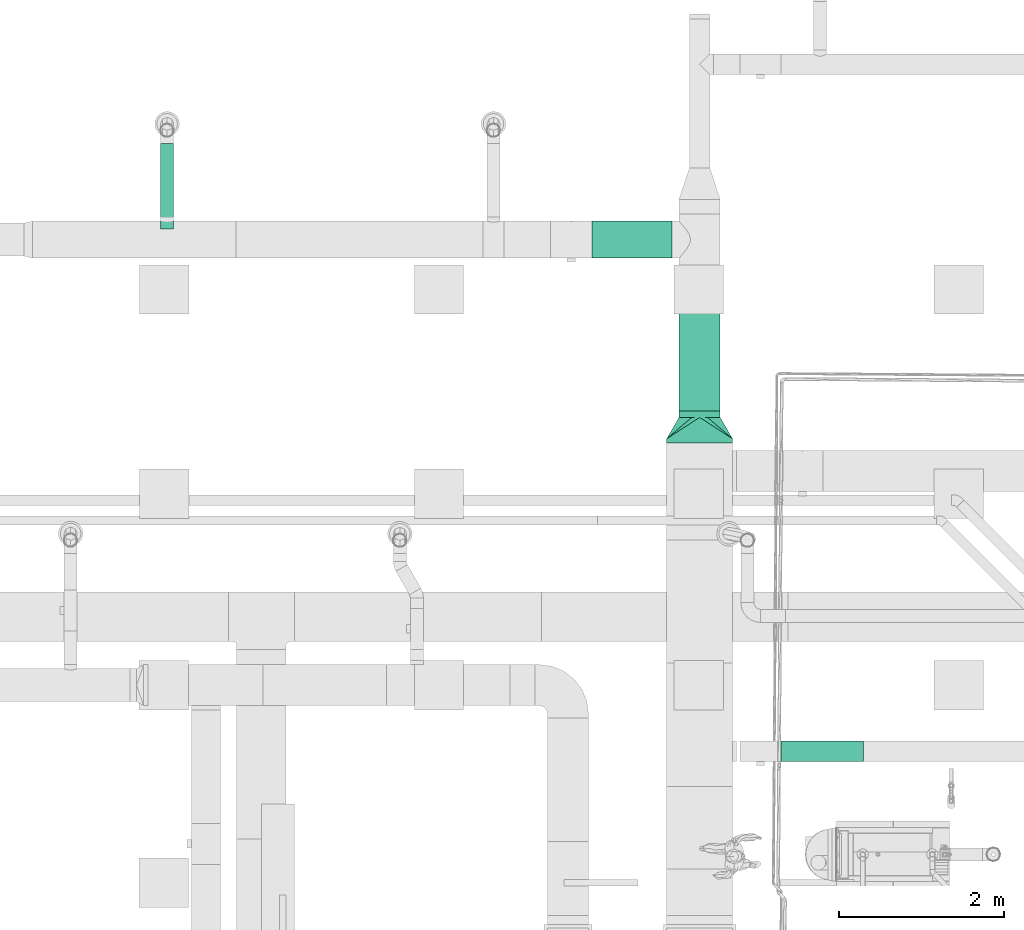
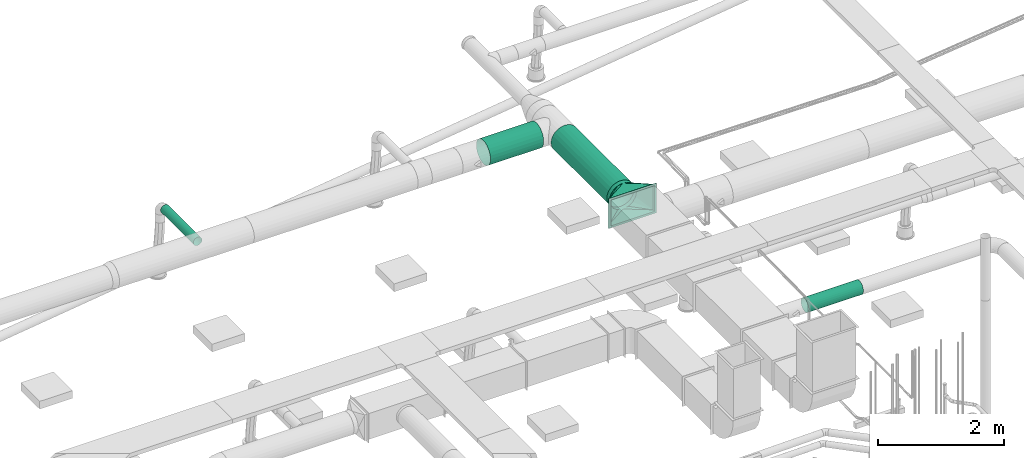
# One storey, part 223 of 374: 4 flow segments, 1 flow fitting.
"""IFC2X3 building model written with IfcOpenShell, lengths in metres."""

from ifc_helpers import new_model, si_unit, direction, origin, place, context, subcontext, project, spatial, open_shell, surface_model, source, transform, mapped, element, save


model = new_model("IFC2X3")

# Units and contexts
model_context = context("Model", 3, precision=1e-05, world=origin(), true_north=direction((-0.4480736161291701, 0.8939966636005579)))
body_context = subcontext(model_context, "Body", "Model", "MODEL_VIEW")
ifc_project = project(units=[si_unit("LENGTHUNIT", "METRE"), si_unit("AREAUNIT", "SQUARE_METRE"), si_unit("VOLUMEUNIT", "CUBIC_METRE"), si_unit("PLANEANGLEUNIT", "RADIAN"), si_unit("THERMODYNAMICTEMPERATUREUNIT", "KELVIN"), si_unit("MASSUNIT", "GRAM", prefix="KILO"), si_unit("TIMEUNIT", "SECOND")], contexts=[model_context])

# Site, building, storey
site_placement = place(None, origin())
site = spatial("IfcSite", under=ifc_project, at=site_placement, Name="Site 1", CompositionType="ELEMENT")
building_placement = place(site_placement, origin())
building = spatial("IfcBuilding", under=site, at=building_placement, Name="Undefined", CompositionType="ELEMENT")
storey_placement = place(building_placement, origin())
storey = spatial("IfcBuildingStorey", under=building, at=storey_placement, Name="Rez de chauss\x8ee", CompositionType="ELEMENT", Elevation=0.0)

# Flow segment
shared_shape_1 = source(origin(), body_context, "Body", "SurfaceModel", [
    surface_model("IfcFaceBasedSurfaceModel", [(0.0, 0.03263154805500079, 0.0), (0.0, 0.0, 0.0), (1.0, 0.0, 0.0), (1.0, 0.032631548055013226, -4.4408921e-16), (0.0, -0.031519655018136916, -0.008445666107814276), (1.0, -0.03151965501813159, -0.008445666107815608), (0.0, -0.05977940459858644, -0.024761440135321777), (1.0, -0.05977940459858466, -0.02476144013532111), (0.0, -0.08285339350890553, -0.047835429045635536), (1.0, -0.0828533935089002, -0.04783542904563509), (0.0, -0.09916916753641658, -0.07609517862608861), (1.0, -0.09916916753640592, -0.07609517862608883), (0.0, -0.1076148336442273, -0.10761483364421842), (1.0, -0.10761483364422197, -0.1076148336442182), (0.0, -0.1076148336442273, -0.14024638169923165), (1.0, -0.10761483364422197, -0.14024638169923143), (0.0, -0.09916916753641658, -0.17176603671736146), (1.0, -0.0991691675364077, -0.17176603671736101), (0.0, -0.08285339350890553, -0.2000257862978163), (1.0, -0.08285339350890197, -0.2000257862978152), (0.0, -0.059779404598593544, -0.22309977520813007), (1.0, -0.059779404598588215, -0.2230997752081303), (0.0, -0.03151965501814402, -0.23941554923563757), (1.0, -0.03151965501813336, -0.23941554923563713), (0.0, -1.4210854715e-14, -0.24786121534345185), (1.0, -3.552713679e-15, -0.24786121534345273), (0.0, 0.03263154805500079, -0.24786121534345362), (1.0, 0.0326315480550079, -0.24786121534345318), (0.0, 0.0641512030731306, -0.23941554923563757), (1.0, 0.06415120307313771, -0.23941554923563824), (0.0, 0.09241095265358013, -0.22309977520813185), (1.0, 0.09241095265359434, -0.22309977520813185), (0.0, 0.11548494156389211, -0.2000257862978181), (1.0, 0.1154849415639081, -0.20002578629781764), (0.0, 0.13180071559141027, -0.171766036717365), (1.0, 0.13180071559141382, -0.17176603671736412), (0.0, 0.140246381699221, -0.1402463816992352), (1.0, 0.14024638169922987, -0.1402463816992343), (0.0, 0.140246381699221, -0.10761483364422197), (1.0, 0.14024638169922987, -0.10761483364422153), (0.0, 0.13180071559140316, -0.07609517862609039), (1.0, 0.1318007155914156, -0.07609517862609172), (0.0, 0.11548494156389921, -0.04783542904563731), (1.0, 0.11548494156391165, -0.047835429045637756), (0.0, 0.09241095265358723, -0.024761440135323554), (1.0, 0.09241095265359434, -0.02476144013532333), (0.0, 0.06415120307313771, -0.008445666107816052), (1.0, 0.06415120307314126, -0.008445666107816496)], [open_shell([[[0, 1, 2, 3]], [[1, 4, 5, 2]], [[4, 6, 7, 5]], [[6, 8, 9, 7]], [[8, 10, 11, 9]], [[10, 12, 13, 11]], [[12, 14, 15, 13]], [[14, 16, 17, 15]], [[16, 18, 19, 17]], [[18, 20, 21, 19]], [[20, 22, 23, 21]], [[22, 24, 25, 23]], [[24, 26, 27, 25]], [[26, 28, 29, 27]], [[28, 30, 31, 29]], [[30, 32, 33, 31]], [[32, 34, 35, 33]], [[34, 36, 37, 35]], [[36, 38, 39, 37]], [[38, 40, 41, 39]], [[40, 42, 43, 41]], [[42, 44, 45, 43]], [[44, 46, 47, 45]], [[46, 0, 3, 47]]])]),
])
flow_segment_1_placement = place(storey_placement, origin())
element("IfcFlowSegment", 1, at=flow_segment_1_placement, inside=storey, Name="Tube", ObjectType="Tube", context=body_context, shape_type="MappedRepresentation", body=[
    mapped(shared_shape_1, transform((52.92499507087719, 14.278791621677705, 3.920740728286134), x_axis=(1.0, 0.0, 0.0), y_axis=(0.0, 0.9914448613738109, 0.1305261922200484), z_axis=(0.0, -0.1305261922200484, 0.9914448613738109))),
])

# Flow fitting
shared_shape_2 = source(origin(), body_context, "Body", "SurfaceModel", [
    surface_model("IfcFaceBasedSurfaceModel", [(0.0, 0.0, 0.0), (0.8800000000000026, 0.0, 0.0), (0.8400000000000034, 0.040000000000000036, -7.105427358e-15), (0.04000000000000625, 0.040000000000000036, 0.0), (0.8800000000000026, 0.5800000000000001, -2.842170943e-14), (0.8400000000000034, 0.54, -2.842170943e-14), (0.0, 0.5800000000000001, 0.0), (0.04000000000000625, 0.54, 0.0), (0.04000000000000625, 0.040000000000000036, -0.0470000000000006), (0.3443291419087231, 0.05903011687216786, -0.3068076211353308), (0.4399999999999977, 0.03999999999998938, -0.30680762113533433), (0.2632233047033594, 0.1132233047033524, -0.3068076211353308), (0.20903011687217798, 0.19432914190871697, -0.30680762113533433), (0.18999999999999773, 0.28999999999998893, -0.30680762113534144), (0.04000000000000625, 0.54, -0.0470000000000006), (0.20903011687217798, 0.38567085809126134, -0.30680762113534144), (0.2632233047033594, 0.4667766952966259, -0.306807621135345), (0.3443291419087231, 0.5209698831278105, -0.306807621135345), (0.4399999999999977, 0.5399999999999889, -0.3068076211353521), (0.8400000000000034, 0.5399999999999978, -0.047000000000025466), (0.5356708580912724, 0.5209698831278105, -0.30680762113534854), (0.6167766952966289, 0.4667766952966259, -0.306807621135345), (0.6709698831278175, 0.38567085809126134, -0.306807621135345), (0.6899999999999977, 0.28999999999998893, -0.30680762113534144), (0.8400000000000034, 0.039999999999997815, -0.04700000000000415), (0.6709698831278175, 0.19432914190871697, -0.3068076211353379), (0.6167766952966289, 0.1132233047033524, -0.3068076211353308), (0.5356708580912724, 0.05903011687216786, -0.30680762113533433), (0.04000000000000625, 0.54, 0.0030000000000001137), (0.04000000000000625, 0.040000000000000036, 0.0030000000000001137), (0.8400000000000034, 0.040000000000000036, 0.0029999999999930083), (0.8400000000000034, 0.54, 0.002999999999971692), (0.37529523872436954, 0.048518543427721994, -0.3068076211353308), (0.37529523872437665, 0.04851854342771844, -0.38680762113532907), (0.44000000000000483, 0.039999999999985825, -0.3868076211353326), (0.3149999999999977, 0.07349364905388, -0.30680762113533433), (0.31500000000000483, 0.07349364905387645, -0.3868076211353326), (0.26322330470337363, 0.11322330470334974, -0.3868076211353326), (0.2234936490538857, 0.16499999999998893, -0.30680762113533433), (0.2234936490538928, 0.16499999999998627, -0.3868076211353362), (0.19851854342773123, 0.22529523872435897, -0.3068076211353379), (0.19851854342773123, 0.2252952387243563, -0.3868076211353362), (0.19000000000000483, 0.28999999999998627, -0.38680762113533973), (0.19851854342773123, 0.35470476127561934, -0.306807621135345), (0.19851854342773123, 0.3547047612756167, -0.3868076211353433), (0.2234936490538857, 0.41499999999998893, -0.30680762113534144), (0.2234936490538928, 0.41499999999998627, -0.3868076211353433), (0.26322330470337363, 0.46677669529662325, -0.38680762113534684), (0.3149999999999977, 0.5065063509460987, -0.30680762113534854), (0.31500000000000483, 0.5065063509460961, -0.38680762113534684), (0.37529523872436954, 0.5314814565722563, -0.30680762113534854), (0.37529523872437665, 0.5314814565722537, -0.38680762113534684), (0.44000000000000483, 0.5399999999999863, -0.3868076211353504), (0.5047047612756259, 0.5314814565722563, -0.30680762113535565), (0.504704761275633, 0.5314814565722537, -0.38680762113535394), (0.5649999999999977, 0.5065063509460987, -0.30680762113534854), (0.5650000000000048, 0.5065063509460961, -0.38680762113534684), (0.616776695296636, 0.46677669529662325, -0.3868076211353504), (0.6565063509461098, 0.41499999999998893, -0.306807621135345), (0.6565063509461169, 0.41499999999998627, -0.38680762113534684), (0.6814814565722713, 0.35470476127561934, -0.306807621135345), (0.6814814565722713, 0.3547047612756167, -0.38680762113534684), (0.6900000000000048, 0.28999999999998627, -0.38680762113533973), (0.6814814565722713, 0.22529523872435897, -0.3068076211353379), (0.6814814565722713, 0.2252952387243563, -0.38680762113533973), (0.6565063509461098, 0.16499999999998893, -0.3068076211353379), (0.6565063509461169, 0.16499999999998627, -0.38680762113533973), (0.616776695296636, 0.11322330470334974, -0.3868076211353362), (0.5649999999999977, 0.07349364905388, -0.30680762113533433), (0.5650000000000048, 0.07349364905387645, -0.3868076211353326), (0.5047047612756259, 0.048518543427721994, -0.3068076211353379), (0.504704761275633, 0.04851854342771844, -0.3868076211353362)], [open_shell([[[0, 1, 2, 3]], [[1, 4, 5, 2]], [[6, 4, 5, 7]], [[0, 6, 7, 3]], [[8, 9, 10]], [[8, 11, 9]], [[8, 12, 11]], [[8, 13, 12]], [[8, 14, 13]], [[14, 15, 13]], [[14, 16, 15]], [[14, 17, 16]], [[14, 18, 17]], [[14, 19, 18]], [[19, 20, 18]], [[19, 21, 20]], [[19, 22, 21]], [[19, 23, 22]], [[19, 24, 23]], [[24, 25, 23]], [[24, 26, 25]], [[24, 27, 26]], [[24, 10, 27]], [[24, 8, 10]], [[28, 14, 8, 29]], [[29, 8, 24, 30]], [[30, 24, 19, 31]], [[31, 19, 14, 28]], [[10, 32, 33, 34]], [[32, 35, 36, 33]], [[35, 11, 37, 36]], [[11, 38, 39, 37]], [[38, 40, 41, 39]], [[40, 13, 42, 41]], [[13, 43, 44, 42]], [[43, 45, 46, 44]], [[45, 16, 47, 46]], [[16, 48, 49, 47]], [[48, 50, 51, 49]], [[50, 18, 52, 51]], [[18, 53, 54, 52]], [[53, 55, 56, 54]], [[55, 21, 57, 56]], [[21, 58, 59, 57]], [[58, 60, 61, 59]], [[60, 23, 62, 61]], [[23, 63, 64, 62]], [[63, 65, 66, 64]], [[65, 26, 67, 66]], [[26, 68, 69, 67]], [[68, 70, 71, 69]], [[70, 10, 34, 71]]])]),
])
flow_fitting_placement = place(storey_placement, origin())
element("IfcFlowFitting", 2, at=flow_fitting_placement, inside=storey, Name="Réduction symétrique", ObjectType="Réduction symétrique", context=body_context, shape_type="MappedRepresentation", body=[
    mapped(shared_shape_2, transform((52.37499507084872, 18.05986750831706, 4.090000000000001), x_axis=(-1.0, 0.0, 0.0), y_axis=(0.0, 0.0, -1.0), z_axis=(0.0, -1.0, 0.0))),
])

# Flow segments
shared_shape_3 = source(origin(), body_context, "Body", "SurfaceModel", [
    surface_model("IfcFaceBasedSurfaceModel", [(0.0, 0.05873678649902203, -2.77555756e-16), (0.0, 0.0, 0.0), (0.9750000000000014, 3.552713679e-15, 0.0), (0.9750000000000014, 0.058736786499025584, 0.0), (0.0, -0.05673537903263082, -0.015202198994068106), (0.9750000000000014, -0.05673537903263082, -0.015202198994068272), (0.0, -0.10760292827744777, -0.044570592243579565), (0.9750000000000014, -0.10760292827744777, -0.04457059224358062), (0.0, -0.14913610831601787, -0.08610377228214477), (0.9750000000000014, -0.14913610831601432, -0.08610377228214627), (0.0, -0.1785045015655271, -0.13697132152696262), (0.9750000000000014, -0.17850450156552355, -0.13697132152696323), (0.0, -0.19370670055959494, -0.1937067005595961), (0.9750000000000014, -0.19370670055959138, -0.19370670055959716), (0.0, -0.19370670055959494, -0.252443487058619), (0.9750000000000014, -0.19370670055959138, -0.2524434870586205), (0.0, -0.1785045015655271, -0.30917886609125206), (0.9750000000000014, -0.17850450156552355, -0.309178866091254), (0.0, -0.14913610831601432, -0.36004641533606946), (0.9750000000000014, -0.14913610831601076, -0.36004641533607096), (0.0, -0.10760292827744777, -0.40157959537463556), (0.9750000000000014, -0.10760292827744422, -0.40157959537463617), (0.0, -0.05673537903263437, -0.43094798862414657), (0.9750000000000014, -0.056735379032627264, -0.4309479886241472), (0.0, 0.0, -0.4461501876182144), (0.9750000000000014, 7.105427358e-15, -0.44615018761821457), (0.0, 0.058736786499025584, -0.4461501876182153), (0.9750000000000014, 0.05873678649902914, -0.44615018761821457), (0.0, 0.1154721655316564, -0.430947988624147), (0.9750000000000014, 0.1154721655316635, -0.43094798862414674), (0.0, 0.16633971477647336, -0.4015795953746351), (0.9750000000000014, 0.16633971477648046, -0.4015795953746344), (0.0, 0.20787289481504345, -0.3600464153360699), (0.9750000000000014, 0.207872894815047, -0.36004641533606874), (0.0, 0.23724128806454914, -0.3091788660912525), (0.9750000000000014, 0.23724128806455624, -0.30917886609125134), (0.0, 0.25244348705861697, -0.25244348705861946), (0.9750000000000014, 0.25244348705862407, -0.2524434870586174), (0.0, 0.25244348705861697, -0.1937067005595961), (0.9750000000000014, 0.25244348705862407, -0.19370670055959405), (0.0, 0.2372412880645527, -0.13697132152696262), (0.9750000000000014, 0.23724128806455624, -0.136971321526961), (0.0, 0.2078728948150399, -0.08610377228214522), (0.9750000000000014, 0.20787289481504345, -0.08610377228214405), (0.0, 0.16633971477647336, -0.044570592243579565), (0.9750000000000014, 0.1663397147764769, -0.044570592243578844), (0.0, 0.11547216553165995, -0.01520219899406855), (0.9750000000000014, 0.11547216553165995, -0.015202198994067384)], [open_shell([[[0, 1, 2, 3]], [[1, 4, 5, 2]], [[4, 6, 7, 5]], [[6, 8, 9, 7]], [[8, 10, 11, 9]], [[10, 12, 13, 11]], [[12, 14, 15, 13]], [[14, 16, 17, 15]], [[16, 18, 19, 17]], [[18, 20, 21, 19]], [[20, 22, 23, 21]], [[22, 24, 25, 23]], [[24, 26, 27, 25]], [[26, 28, 29, 27]], [[28, 30, 31, 29]], [[30, 32, 33, 31]], [[32, 34, 35, 33]], [[34, 36, 37, 35]], [[36, 38, 39, 37]], [[38, 40, 41, 39]], [[40, 42, 43, 41]], [[42, 44, 45, 43]], [[44, 46, 47, 45]], [[46, 0, 3, 47]]])]),
])
flow_segment_2_placement = place(storey_placement, origin())
element("IfcFlowSegment", 3, at=flow_segment_2_placement, inside=storey, Name="Tube", ObjectType="Tube", context=body_context, shape_type="MappedRepresentation", body=[
    mapped(shared_shape_3, transform((50.6249950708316, 20.468653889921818, 4.017333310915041), x_axis=(1.0, 0.0, 0.0), y_axis=(0.0, 0.9914448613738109, 0.1305261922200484), z_axis=(0.0, -0.1305261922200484, 0.9914448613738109))),
])
shared_shape_4 = source(origin(), body_context, "Body", "SurfaceModel", [
    surface_model("IfcFaceBasedSurfaceModel", [(0.0, 0.0652630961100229, -3.552713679e-15), (0.0, 0.0, 0.0), (1.770213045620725, 0.0, 4.4408921e-16), (1.7702130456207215, 0.0652630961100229, 4.4408921e-16), (0.0, -0.06303931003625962, -0.01689133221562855), (1.7702130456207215, -0.06303931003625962, -0.016891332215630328), (0.0, -0.11955880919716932, -0.049522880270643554), (1.7702130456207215, -0.11955880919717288, -0.04952288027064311), (0.0, -0.1657067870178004, -0.09567085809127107), (1.7702130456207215, -0.16570678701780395, -0.09567085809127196), (0.0, -0.1983383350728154, -0.15219035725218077), (1.7702130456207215, -0.19833833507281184, -0.15219035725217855), (0.0, -0.2152296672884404, -0.2152296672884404), (1.7702130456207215, -0.2152296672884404, -0.21522966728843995), (0.0, -0.2152296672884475, -0.28049276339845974), (1.7702130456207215, -0.2152296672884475, -0.2804927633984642), (0.0, -0.1983383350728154, -0.3435320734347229), (1.7702130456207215, -0.19833833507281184, -0.3435320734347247), (0.0, -0.1657067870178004, -0.4000515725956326), (1.7702130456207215, -0.16570678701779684, -0.40005157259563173), (0.0, -0.11955880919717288, -0.44619955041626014), (1.7702130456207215, -0.11955880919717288, -0.4461995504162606), (0.0, -0.06303931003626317, -0.47883109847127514), (1.770213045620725, -0.06303931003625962, -0.47883109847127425), (0.0, -7.105427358e-15, -0.49572243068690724), (1.7702130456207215, -7.105427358e-15, -0.4957224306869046), (0.0, 0.0652630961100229, -0.4957224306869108), (1.7702130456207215, 0.0652630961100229, -0.4957224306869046), (0.0, 0.12830240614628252, -0.47883109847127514), (1.7702130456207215, 0.12830240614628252, -0.4788310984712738), (0.0, 0.18482190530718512, -0.4461995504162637), (1.7702130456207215, 0.18482190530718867, -0.44619955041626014), (0.0, 0.2309698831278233, -0.4000515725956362), (1.7702130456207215, 0.23096988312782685, -0.4000515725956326), (0.0, 0.26360143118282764, -0.34353207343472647), (1.7702130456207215, 0.26360143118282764, -0.3435320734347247), (0.0, 0.2804927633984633, -0.2804927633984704), (1.770213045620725, 0.2804927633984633, -0.2804927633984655), (0.0, 0.28049276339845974, -0.2152296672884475), (1.7702130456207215, 0.2804927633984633, -0.21522966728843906), (0.0, 0.2636014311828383, -0.15219035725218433), (1.7702130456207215, 0.26360143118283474, -0.1521903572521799), (0.0, 0.2309698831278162, -0.09567085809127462), (1.7702130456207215, 0.23096988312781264, -0.09567085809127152), (0.0, 0.18482190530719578, -0.049522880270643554), (1.7702130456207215, 0.18482190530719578, -0.049522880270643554), (0.0, 0.12830240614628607, -0.016891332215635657), (1.7702130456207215, 0.12830240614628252, -0.016891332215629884)], [open_shell([[[0, 1, 2, 3]], [[1, 4, 5, 2]], [[4, 6, 7, 5]], [[6, 8, 9, 7]], [[8, 10, 11, 9]], [[10, 12, 13, 11]], [[12, 14, 15, 13]], [[14, 16, 17, 15]], [[16, 18, 19, 17]], [[18, 20, 21, 19]], [[20, 22, 23, 21]], [[22, 24, 25, 23]], [[24, 26, 27, 25]], [[26, 28, 29, 27]], [[28, 30, 31, 29]], [[30, 32, 33, 31]], [[32, 34, 35, 33]], [[34, 36, 37, 35]], [[36, 38, 39, 37]], [[38, 40, 41, 39]], [[40, 42, 43, 41]], [[42, 44, 45, 43]], [[44, 46, 47, 45]], [[46, 0, 3, 47]]])]),
])
flow_segment_3_placement = place(storey_placement, origin())
element("IfcFlowSegment", 4, at=flow_segment_3_placement, inside=storey, Name="Tube", ObjectType="Tube", context=body_context, shape_type="MappedRepresentation", body=[
    mapped(shared_shape_4, transform((51.9996998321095, 20.21688817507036, 3.5585185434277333), x_axis=(0.0, -1.0, 0.0), y_axis=(-0.9914448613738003, 0.0, -0.13052619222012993), z_axis=(0.130526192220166, 0.0, -0.9914448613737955))),
])
shared_shape_5 = source(origin(), body_context, "Body", "SurfaceModel", [
    surface_model("IfcFaceBasedSurfaceModel", [(0.0, 0.020884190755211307, 0.0), (0.0, 0.0, 0.0), (1.0370256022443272, -7.105427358e-15, 0.0), (1.0370256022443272, 0.0208841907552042, 0.0), (0.0, -0.020172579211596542, -0.005405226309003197), (1.0370256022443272, -0.020172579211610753, -0.005405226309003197), (0.0, -0.03825881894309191, -0.015847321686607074), (1.0370256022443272, -0.038258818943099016, -0.015847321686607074), (0.0, -0.05302617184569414, -0.0306146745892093), (1.0370256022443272, -0.05302617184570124, -0.030614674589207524), (0.0, -0.06346826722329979, -0.04870091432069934), (1.0370256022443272, -0.06346826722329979, -0.04870091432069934), (0.0, -0.06887349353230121, -0.06887349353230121), (1.0370256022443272, -0.06887349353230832, -0.06887349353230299), (0.0, -0.06887349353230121, -0.08975768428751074), (1.0370256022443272, -0.06887349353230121, -0.08975768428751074), (0.0, -0.06346826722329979, -0.10993026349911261), (1.0370256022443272, -0.0634682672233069, -0.10993026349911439), (0.0, -0.05302617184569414, -0.12801650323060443), (1.0370256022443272, -0.05302617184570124, -0.12801650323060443), (0.0, -0.038258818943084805, -0.14278385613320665), (1.0370256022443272, -0.038258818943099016, -0.14278385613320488), (0.0, -0.020172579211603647, -0.15322595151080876), (1.0370256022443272, -0.020172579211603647, -0.15322595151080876), (0.0, 7.105427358e-15, -0.15863117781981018), (1.0370256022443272, 0.0, -0.15863117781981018), (0.0, 0.020884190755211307, -0.15863117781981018), (1.0370256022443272, 0.020884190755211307, -0.15863117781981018), (0.0, 0.04105676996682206, -0.15322595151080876), (1.0370256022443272, 0.04105676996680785, -0.15322595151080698), (0.0, 0.05914300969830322, -0.1427838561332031), (1.0370256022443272, 0.05914300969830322, -0.1427838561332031), (0.0, 0.07391036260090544, -0.12801650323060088), (1.0370256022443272, 0.07391036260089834, -0.12801650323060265), (0.0, 0.0843524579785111, -0.10993026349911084), (1.0370256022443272, 0.08435245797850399, -0.10993026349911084), (0.0, 0.08975768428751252, -0.08975768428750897), (1.0370256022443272, 0.08975768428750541, -0.08975768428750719), (0.0, 0.08975768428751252, -0.06887349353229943), (1.0370256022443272, 0.08975768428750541, -0.06887349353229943), (0.0, 0.0843524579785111, -0.048700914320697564), (1.0370256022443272, 0.08435245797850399, -0.04870091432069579), (0.0, 0.07391036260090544, -0.030614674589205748), (1.0370256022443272, 0.07391036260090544, -0.030614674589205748), (0.0, 0.05914300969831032, -0.015847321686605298), (1.0370256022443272, 0.05914300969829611, -0.015847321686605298), (0.0, 0.04105676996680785, -0.005405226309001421), (1.0370256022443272, 0.04105676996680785, -0.005405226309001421)], [open_shell([[[0, 1, 2, 3]], [[1, 4, 5, 2]], [[4, 6, 7, 5]], [[6, 8, 9, 7]], [[8, 10, 11, 9]], [[10, 12, 13, 11]], [[12, 14, 15, 13]], [[14, 16, 17, 15]], [[16, 18, 19, 17]], [[18, 20, 21, 19]], [[20, 22, 23, 21]], [[22, 24, 25, 23]], [[24, 26, 27, 25]], [[26, 28, 29, 27]], [[28, 30, 31, 29]], [[30, 32, 33, 31]], [[32, 34, 35, 33]], [[34, 36, 37, 35]], [[36, 38, 39, 37]], [[38, 40, 41, 39]], [[40, 42, 43, 41]], [[42, 44, 45, 43]], [[44, 46, 47, 45]], [[46, 0, 3, 47]]])]),
])
flow_segment_4_placement = place(storey_placement, origin())
element("IfcFlowSegment", 5, at=flow_segment_4_placement, inside=storey, Name="Tube", ObjectType="Tube", context=body_context, shape_type="MappedRepresentation", body=[
    mapped(shared_shape_5, transform((45.44486005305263, 20.65629578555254, 3.7227259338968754), x_axis=(0.0, 1.0, 0.0), y_axis=(0.9914448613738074, 0.0, -0.13052619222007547), z_axis=(-0.13052619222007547, 0.0, -0.9914448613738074))),
])

save(model, "model.ifc")
